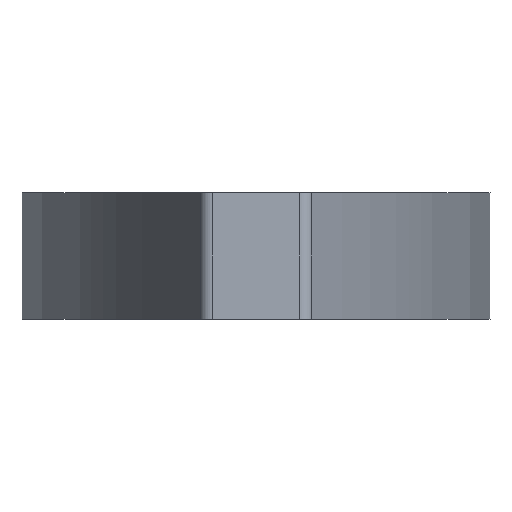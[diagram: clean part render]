
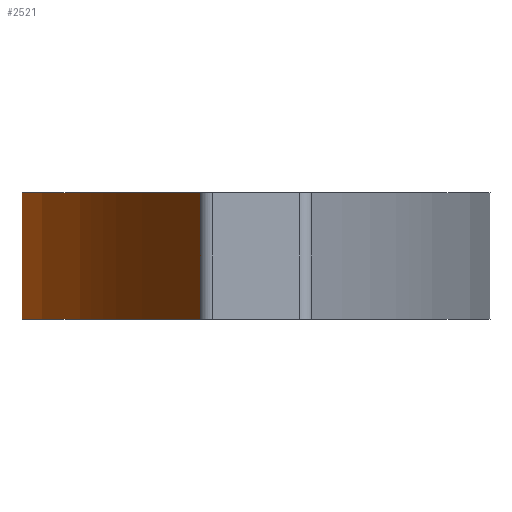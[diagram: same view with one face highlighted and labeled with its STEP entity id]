
A CAD part, left-side view. The second image highlights one B-rep face of the part: STEP entity #2521.
In plain terms, the highlighted cylindrical face has radius 50 mm (diameter 100 mm), a partial arc.
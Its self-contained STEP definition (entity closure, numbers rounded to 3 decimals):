
#15=CYLINDRICAL_SURFACE('',#2803,50.);
#59=CIRCLE('',#2586,50.);
#62=CIRCLE('',#2589,50.);
#63=CIRCLE('',#2600,50.);
#67=CIRCLE('',#2605,50.);
#71=CIRCLE('',#2610,50.);
#155=CIRCLE('',#2777,50.);
#156=CIRCLE('',#2778,50.);
#161=CIRCLE('',#2795,50.);
#162=CIRCLE('',#2797,50.);
#163=CIRCLE('',#2799,50.);
#346=FACE_OUTER_BOUND('',#498,.T.);
#498=EDGE_LOOP('',(#2241,#2242,#2243,#2244,#2245,#2246,#2247,#2248,#2249,
#2250,#2251,#2252,#2253,#2254,#2255,#2256,#2257,#2258,#2259,#2260));
#551=LINE('',#3708,#783);
#555=LINE('',#3715,#787);
#564=LINE('',#3733,#796);
#566=LINE('',#3737,#798);
#717=LINE('',#4276,#949);
#721=LINE('',#4283,#953);
#723=LINE('',#4288,#955);
#728=LINE('',#4297,#960);
#731=LINE('',#4322,#963);
#732=LINE('',#4323,#964);
#783=VECTOR('',#2943,10.);
#787=VECTOR('',#2949,10.);
#796=VECTOR('',#2966,10.);
#798=VECTOR('',#2970,10.);
#949=VECTOR('',#3497,10.);
#953=VECTOR('',#3503,10.);
#955=VECTOR('',#3507,10.);
#960=VECTOR('',#3516,10.);
#963=VECTOR('',#3547,10.);
#964=VECTOR('',#3548,10.);
#1005=VERTEX_POINT('',#3677);
#1006=VERTEX_POINT('',#3679);
#1013=VERTEX_POINT('',#3693);
#1014=VERTEX_POINT('',#3695);
#1017=VERTEX_POINT('',#3705);
#1020=VERTEX_POINT('',#3712);
#1025=VERTEX_POINT('',#3730);
#1026=VERTEX_POINT('',#3735);
#1027=VERTEX_POINT('',#3740);
#1034=VERTEX_POINT('',#3758);
#1184=VERTEX_POINT('',#4235);
#1185=VERTEX_POINT('',#4237);
#1188=VERTEX_POINT('',#4243);
#1189=VERTEX_POINT('',#4245);
#1198=VERTEX_POINT('',#4273);
#1201=VERTEX_POINT('',#4280);
#1202=VERTEX_POINT('',#4285);
#1205=VERTEX_POINT('',#4295);
#1209=VERTEX_POINT('',#4306);
#1210=VERTEX_POINT('',#4312);
#1264=EDGE_CURVE('',#1006,#1005,#59,.T.);
#1272=EDGE_CURVE('',#1014,#1013,#62,.T.);
#1278=EDGE_CURVE('',#1017,#1013,#551,.T.);
#1282=EDGE_CURVE('',#1020,#1014,#555,.T.);
#1291=EDGE_CURVE('',#1025,#1006,#564,.T.);
#1293=EDGE_CURVE('',#1026,#1005,#566,.T.);
#1294=EDGE_CURVE('',#1025,#1027,#63,.T.);
#1299=EDGE_CURVE('',#1020,#1026,#67,.T.);
#1304=EDGE_CURVE('',#1034,#1017,#71,.T.);
#1529=EDGE_CURVE('',#1185,#1184,#155,.T.);
#1533=EDGE_CURVE('',#1189,#1188,#156,.T.);
#1547=EDGE_CURVE('',#1198,#1184,#717,.T.);
#1551=EDGE_CURVE('',#1201,#1189,#721,.T.);
#1553=EDGE_CURVE('',#1202,#1188,#723,.T.);
#1558=EDGE_CURVE('',#1205,#1185,#728,.T.);
#1563=EDGE_CURVE('',#1198,#1209,#161,.T.);
#1564=EDGE_CURVE('',#1202,#1205,#162,.T.);
#1565=EDGE_CURVE('',#1210,#1201,#163,.T.);
#1570=EDGE_CURVE('',#1210,#1034,#731,.T.);
#1571=EDGE_CURVE('',#1209,#1027,#732,.T.);
#2241=ORIENTED_EDGE('',*,*,#1304,.F.);
#2242=ORIENTED_EDGE('',*,*,#1570,.F.);
#2243=ORIENTED_EDGE('',*,*,#1565,.T.);
#2244=ORIENTED_EDGE('',*,*,#1551,.T.);
#2245=ORIENTED_EDGE('',*,*,#1533,.T.);
#2246=ORIENTED_EDGE('',*,*,#1553,.F.);
#2247=ORIENTED_EDGE('',*,*,#1564,.T.);
#2248=ORIENTED_EDGE('',*,*,#1558,.T.);
#2249=ORIENTED_EDGE('',*,*,#1529,.T.);
#2250=ORIENTED_EDGE('',*,*,#1547,.F.);
#2251=ORIENTED_EDGE('',*,*,#1563,.T.);
#2252=ORIENTED_EDGE('',*,*,#1571,.T.);
#2253=ORIENTED_EDGE('',*,*,#1294,.F.);
#2254=ORIENTED_EDGE('',*,*,#1291,.T.);
#2255=ORIENTED_EDGE('',*,*,#1264,.T.);
#2256=ORIENTED_EDGE('',*,*,#1293,.F.);
#2257=ORIENTED_EDGE('',*,*,#1299,.F.);
#2258=ORIENTED_EDGE('',*,*,#1282,.T.);
#2259=ORIENTED_EDGE('',*,*,#1272,.T.);
#2260=ORIENTED_EDGE('',*,*,#1278,.F.);
#2521=ADVANCED_FACE('',(#346),#15,.T.);
#2586=AXIS2_PLACEMENT_3D('',#3680,#2921,#2922);
#2589=AXIS2_PLACEMENT_3D('',#3696,#2932,#2933);
#2600=AXIS2_PLACEMENT_3D('',#3741,#2975,#2976);
#2605=AXIS2_PLACEMENT_3D('',#3750,#2986,#2987);
#2610=AXIS2_PLACEMENT_3D('',#3760,#2997,#2998);
#2777=AXIS2_PLACEMENT_3D('',#4238,#3464,#3465);
#2778=AXIS2_PLACEMENT_3D('',#4246,#3469,#3470);
#2795=AXIS2_PLACEMENT_3D('',#4308,#3528,#3529);
#2797=AXIS2_PLACEMENT_3D('',#4310,#3532,#3533);
#2799=AXIS2_PLACEMENT_3D('',#4313,#3536,#3537);
#2803=AXIS2_PLACEMENT_3D('',#4321,#3545,#3546);
#2921=DIRECTION('center_axis',(0.,0.,1.));
#2922=DIRECTION('ref_axis',(0.345,0.939,0.));
#2932=DIRECTION('center_axis',(0.,0.,1.));
#2933=DIRECTION('ref_axis',(-0.275,0.961,0.));
#2943=DIRECTION('',(0.,0.,-1.));
#2949=DIRECTION('',(0.,0.,-1.));
#2966=DIRECTION('',(0.,0.,-1.));
#2970=DIRECTION('',(0.,0.,-1.));
#2975=DIRECTION('center_axis',(0.,0.,-1.));
#2976=DIRECTION('ref_axis',(-0.466,-0.885,0.));
#2986=DIRECTION('center_axis',(0.,0.,-1.));
#2987=DIRECTION('ref_axis',(-0.466,-0.885,0.));
#2997=DIRECTION('center_axis',(0.,0.,-1.));
#2998=DIRECTION('ref_axis',(-0.466,-0.885,0.));
#3464=DIRECTION('center_axis',(0.,0.,-1.));
#3465=DIRECTION('ref_axis',(-0.466,0.885,0.));
#3469=DIRECTION('center_axis',(0.,0.,-1.));
#3470=DIRECTION('ref_axis',(-0.466,0.885,0.));
#3497=DIRECTION('',(0.,0.,1.));
#3503=DIRECTION('',(0.,0.,1.));
#3507=DIRECTION('',(0.,0.,1.));
#3516=DIRECTION('',(0.,0.,1.));
#3528=DIRECTION('center_axis',(0.,0.,-1.));
#3529=DIRECTION('ref_axis',(-0.466,-0.885,0.));
#3532=DIRECTION('center_axis',(0.,0.,-1.));
#3533=DIRECTION('ref_axis',(-0.466,-0.885,0.));
#3536=DIRECTION('center_axis',(0.,0.,-1.));
#3537=DIRECTION('ref_axis',(-0.466,-0.885,0.));
#3545=DIRECTION('center_axis',(0.,0.,1.));
#3546=DIRECTION('ref_axis',(-0.466,-0.885,0.));
#3547=DIRECTION('',(0.,0.,-1.));
#3548=DIRECTION('',(0.,0.,-1.));
#3677=CARTESIAN_POINT('',(13.75,5.572,-2.01));
#3679=CARTESIAN_POINT('',(17.25,4.43,-2.01));
#3680=CARTESIAN_POINT('Origin',(0.,-42.5,-2.01));
#3693=CARTESIAN_POINT('',(-17.25,4.43,-2.01));
#3695=CARTESIAN_POINT('',(-13.75,5.572,-2.01));
#3696=CARTESIAN_POINT('Origin',(0.,-42.5,-2.01));
#3705=CARTESIAN_POINT('',(-17.25,4.43,-2.));
#3708=CARTESIAN_POINT('',(-17.25,4.43,0.));
#3712=CARTESIAN_POINT('',(-13.75,5.572,-2.));
#3715=CARTESIAN_POINT('',(-13.75,5.572,0.));
#3730=CARTESIAN_POINT('',(17.25,4.43,-2.));
#3733=CARTESIAN_POINT('',(17.25,4.43,0.));
#3735=CARTESIAN_POINT('',(13.75,5.572,-2.));
#3737=CARTESIAN_POINT('',(13.75,5.572,0.));
#3740=CARTESIAN_POINT('',(23.286,1.746,-2.));
#3741=CARTESIAN_POINT('Origin',(0.,-42.5,-2.));
#3750=CARTESIAN_POINT('Origin',(0.,-42.5,-2.));
#3758=CARTESIAN_POINT('',(-23.286,1.746,-2.));
#3760=CARTESIAN_POINT('Origin',(0.,-42.5,-2.));
#4235=CARTESIAN_POINT('',(17.25,4.43,2.01));
#4237=CARTESIAN_POINT('',(13.75,5.572,2.01));
#4238=CARTESIAN_POINT('Origin',(0.,-42.5,2.01));
#4243=CARTESIAN_POINT('',(-13.75,5.572,2.01));
#4245=CARTESIAN_POINT('',(-17.25,4.43,2.01));
#4246=CARTESIAN_POINT('Origin',(0.,-42.5,2.01));
#4273=CARTESIAN_POINT('',(17.25,4.43,2.));
#4276=CARTESIAN_POINT('',(17.25,4.43,0.));
#4280=CARTESIAN_POINT('',(-17.25,4.43,2.));
#4283=CARTESIAN_POINT('',(-17.25,4.43,0.));
#4285=CARTESIAN_POINT('',(-13.75,5.572,2.));
#4288=CARTESIAN_POINT('',(-13.75,5.572,0.));
#4295=CARTESIAN_POINT('',(13.75,5.572,2.));
#4297=CARTESIAN_POINT('',(13.75,5.572,0.));
#4306=CARTESIAN_POINT('',(23.286,1.746,2.));
#4308=CARTESIAN_POINT('Origin',(0.,-42.5,2.));
#4310=CARTESIAN_POINT('Origin',(0.,-42.5,2.));
#4312=CARTESIAN_POINT('',(-23.286,1.746,2.));
#4313=CARTESIAN_POINT('Origin',(0.,-42.5,2.));
#4321=CARTESIAN_POINT('Origin',(0.,-42.5,0.));
#4322=CARTESIAN_POINT('',(-23.286,1.746,0.));
#4323=CARTESIAN_POINT('',(23.286,1.746,0.));
